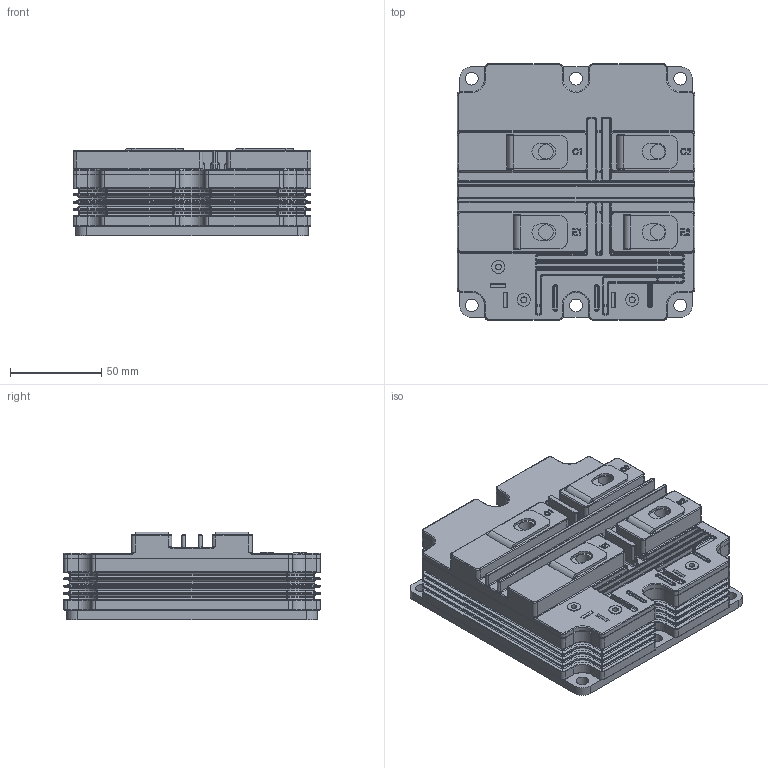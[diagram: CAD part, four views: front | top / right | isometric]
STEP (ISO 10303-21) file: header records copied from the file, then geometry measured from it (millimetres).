
FILE_DESCRIPTION (( 'STEP AP214' ), '1' );
FILE_NAME ('LD-ES-170634-MDM1200FH33F.STEP', '2017-08-25T04:29:31', ( 'Flora110' ), ( '' ), 'SwSTEP 2.0', 'SolidWorks 2010', '' );
FILE_SCHEMA (( 'AUTOMOTIVE_DESIGN' ));
Length unit declared in the file: millimetre
Products named in the file (1): LD-ES-170634-MDM1200FH33F
Bounding box: 130 x 140 x 48 mm (x, y, z)
Volume: 650323.7 mm3; surface area: 124139.5 mm2
Topology: 1 solids, 5 shells, 2625 faces, 6032 edges, 3432 vertices
Faces by surface type: cylinder 965, plane 748, bspline 520, torus 320, cone 72
Full cylindrical faces by diameter (mm): 1.25 x2, 2 x4, 3.2 x3, 3.5 x4, 4 x4, 4.5 x4, 6 x4, 7 x10, 7.1 x3, 8 x4, 9 x4, 17.5 x4
Entity records: 118471 total; most frequent: CARTESIAN_POINT 34296, ORIENTED_EDGE 11796, DIRECTION 11128, EDGE_CURVE 5898, AXIS2_PLACEMENT_3D 4196, VERTEX_POINT 3408, EDGE_LOOP 2796, VECTOR 2736
